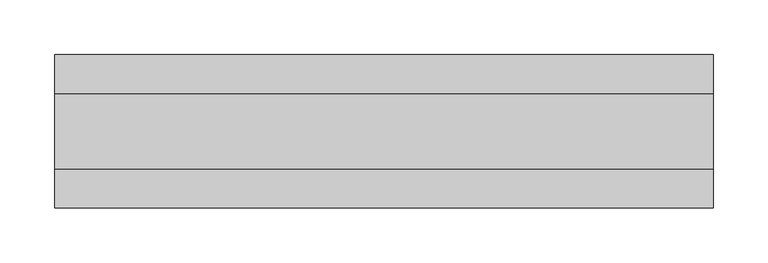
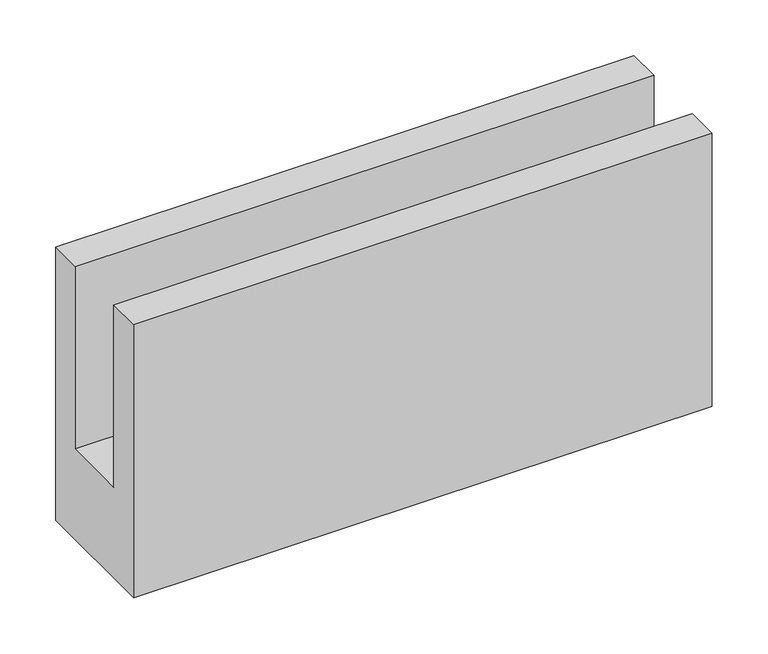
"""IFC4 building model written with IfcOpenShell, lengths in millimetres: proxy geometry, Módulo U de Concreto Celular - Celucon : MUCC 14x30x60cm (L x A x C)."""

from ifc_helpers import new_model, si_unit, frame, origin, place, context, project, spatial, polyline, outline, extrude, source, transform, mapped, element, save


def generic_models_7f6e2def(model_context):
    return source(origin(), model_context, "Body", "SweptSolid", [
        extrude(outline(polyline([(70.0, 0.0), (-70.0, 0.0), (-70.0, 300.0), (-34.6, 300.0), (-34.6, 100.0), (34.6, 100.0), (34.6, 300.0), (70.0, 300.0), (70.0, 0.0)])), frame((-300.0, 0.0, 0.0), z_axis=(1.0, 0.0, 0.0), x_axis=(0.0, 1.0, 0.0)), (0.0, 0.0, 1.0), 600.0),
    ])


if __name__ == "__main__":
    model = new_model("IFC4")
    model_context = context("Model", 3, world=origin())
    ifc_project = project(units=[si_unit("LENGTHUNIT", "METRE", prefix="MILLI")], contexts=[model_context])
    site = spatial("IfcSite", under=ifc_project)
    building = spatial("IfcBuilding", under=site)
    placement = place(None, origin())
    generic_models_shape = generic_models_7f6e2def(model_context)
    element("IfcBuildingElementProxy", 1, Name="Módulo U de Concreto Celular - Celucon : MUCC 14x30x60cm (L x A x C)", ObjectType="Módulo U de Concreto Celular - Celucon : MUCC 14x30x60cm (L x A x C)", at=placement, inside=building, context=model_context, shape_type="MappedRepresentation", body=[
        mapped(generic_models_shape, transform((0.0, 0.0, 0.0), x_axis=(1.0, 0.0, 0.0), y_axis=(0.0, 1.0, 0.0), z_axis=(0.0, 0.0, 1.0))),
    ])
    save(model, "model.ifc")
